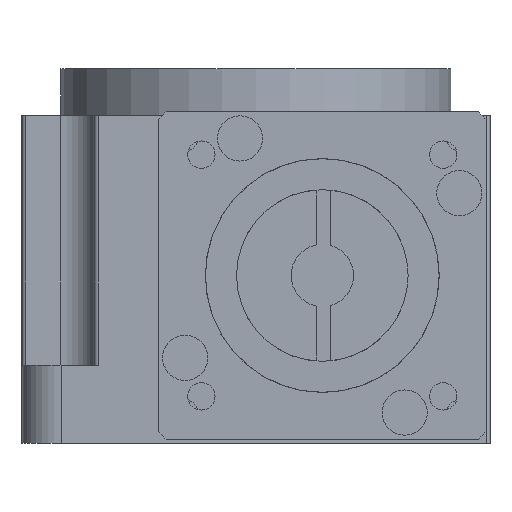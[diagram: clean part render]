
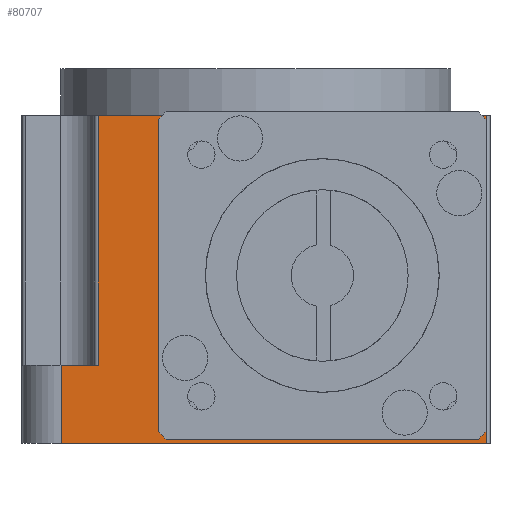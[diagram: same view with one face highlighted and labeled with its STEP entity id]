
A CAD part, front view. The second image highlights one B-rep face of the part: STEP entity #80707.
In plain terms, the highlighted planar face has unit normal (0, -1, 0).
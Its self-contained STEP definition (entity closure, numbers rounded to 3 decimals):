
#793 = ORIENTED_EDGE ( 'NONE', *, *, #68514, .F. ) ;
#1344 = DIRECTION ( 'NONE',  ( 0., 0., 1. ) ) ;
#2897 = VERTEX_POINT ( 'NONE', #32936 ) ;
#3634 = ORIENTED_EDGE ( 'NONE', *, *, #19944, .F. ) ;
#4200 = DIRECTION ( 'NONE',  ( 0., 0., 1. ) ) ;
#4251 = CARTESIAN_POINT ( 'NONE',  ( 28.5, -35., 4.5 ) ) ;
#5505 = LINE ( 'NONE', #10810, #62813 ) ;
#6130 = EDGE_CURVE ( 'NONE', #77726, #54209, #34378, .T. ) ;
#6255 = CARTESIAN_POINT ( 'NONE',  ( -8.5, -35., 38.5 ) ) ;
#7684 = CARTESIAN_POINT ( 'NONE',  ( -8.5, -35., 41.5 ) ) ;
#8315 = CARTESIAN_POINT ( 'NONE',  ( 29.5, -35., 42. ) ) ;
#10329 = ORIENTED_EDGE ( 'NONE', *, *, #16005, .F. ) ;
#10402 = VERTEX_POINT ( 'NONE', #26453 ) ;
#10810 = CARTESIAN_POINT ( 'NONE',  ( -25., -35., 0. ) ) ;
#11648 = VERTEX_POINT ( 'NONE', #55260 ) ;
#12850 = CARTESIAN_POINT ( 'NONE',  ( 25.5, -35., 38.5 ) ) ;
#13180 = CARTESIAN_POINT ( 'NONE',  ( -25., -35., 10. ) ) ;
#13547 = DIRECTION ( 'NONE',  ( 0., 0., 1. ) ) ;
#14129 = LINE ( 'NONE', #8315, #88166 ) ;
#14703 = DIRECTION ( 'NONE',  ( 0., 0., 1. ) ) ;
#16005 = EDGE_CURVE ( 'NONE', #54209, #22424, #51211, .T. ) ;
#16759 = CARTESIAN_POINT ( 'NONE',  ( -25., -35., 41.5 ) ) ;
#17030 = DIRECTION ( 'NONE',  ( 0., 0., 1. ) ) ;
#17240 = EDGE_CURVE ( 'NONE', #27956, #60426, #14129, .T. ) ;
#18751 = VERTEX_POINT ( 'NONE', #54149 ) ;
#19944 = EDGE_CURVE ( 'NONE', #10402, #27956, #77452, .T. ) ;
#20035 = DIRECTION ( 'NONE',  ( 0., 0., 1. ) ) ;
#20632 = CARTESIAN_POINT ( 'NONE',  ( 29.5, -35., 42. ) ) ;
#20777 = DIRECTION ( 'NONE',  ( 0., 0., -1. ) ) ;
#21601 = EDGE_CURVE ( 'NONE', #11648, #78479, #50329, .T. ) ;
#22424 = VERTEX_POINT ( 'NONE', #85355 ) ;
#22906 = DIRECTION ( 'NONE',  ( 0., -1., 0. ) ) ;
#23059 = EDGE_CURVE ( 'NONE', #18751, #66754, #62459, .T. ) ;
#23904 = DIRECTION ( 'NONE',  ( -1., 0., 0. ) ) ;
#23928 = ORIENTED_EDGE ( 'NONE', *, *, #67352, .F. ) ;
#24035 = DIRECTION ( 'NONE',  ( 0., 0., 1. ) ) ;
#24221 = VECTOR ( 'NONE', #14703, 1000. ) ;
#24884 = ORIENTED_EDGE ( 'NONE', *, *, #53797, .F. ) ;
#25057 = EDGE_CURVE ( 'NONE', #2897, #77726, #65567, .T. ) ;
#26453 = CARTESIAN_POINT ( 'NONE',  ( -20.2, -35., 42. ) ) ;
#27484 = EDGE_LOOP ( 'NONE', ( #793, #86936, #70844, #29661, #29833, #3634 ) ) ;
#27956 = VERTEX_POINT ( 'NONE', #20632 ) ;
#29661 = ORIENTED_EDGE ( 'NONE', *, *, #61297, .F. ) ;
#29833 = ORIENTED_EDGE ( 'NONE', *, *, #17240, .F. ) ;
#30444 = AXIS2_PLACEMENT_3D ( 'NONE', #6255, #56507, #13547 ) ;
#30957 = VERTEX_POINT ( 'NONE', #7684 ) ;
#31067 = CARTESIAN_POINT ( 'NONE',  ( -25., -35., 42. ) ) ;
#31703 = CIRCLE ( 'NONE', #30444, 3. ) ;
#32585 = VECTOR ( 'NONE', #23904, 1000. ) ;
#32936 = CARTESIAN_POINT ( 'NONE',  ( -11.5, -35., 38.5 ) ) ;
#34253 = CARTESIAN_POINT ( 'NONE',  ( -25., -35., 10. ) ) ;
#34378 = CIRCLE ( 'NONE', #78722, 3. ) ;
#36042 = VECTOR ( 'NONE', #4200, 1000. ) ;
#36272 = ORIENTED_EDGE ( 'NONE', *, *, #6130, .F. ) ;
#37467 = VERTEX_POINT ( 'NONE', #70580 ) ;
#37474 = EDGE_CURVE ( 'NONE', #66754, #37467, #64438, .T. ) ;
#39672 = EDGE_CURVE ( 'NONE', #22424, #81900, #86538, .T. ) ;
#41594 = DIRECTION ( 'NONE',  ( 1., 0., 0. ) ) ;
#44395 = DIRECTION ( 'NONE',  ( 0., -1., 0. ) ) ;
#45302 = VECTOR ( 'NONE', #77778, 1000. ) ;
#46873 = AXIS2_PLACEMENT_3D ( 'NONE', #31067, #60005, #17030 ) ;
#47241 = CARTESIAN_POINT ( 'NONE',  ( -20.2, -35., 42. ) ) ;
#48114 = DIRECTION ( 'NONE',  ( 1., 0., 0. ) ) ;
#50329 = CIRCLE ( 'NONE', #86009, 3. ) ;
#50467 = CARTESIAN_POINT ( 'NONE',  ( -25., -35., 42. ) ) ;
#51211 = LINE ( 'NONE', #76322, #72542 ) ;
#51959 = LINE ( 'NONE', #67103, #54196 ) ;
#52788 = PLANE ( 'NONE',  #46873 ) ;
#53330 = AXIS2_PLACEMENT_3D ( 'NONE', #87363, #44395, #1344 ) ;
#53797 = EDGE_CURVE ( 'NONE', #81900, #11648, #51959, .T. ) ;
#54149 = CARTESIAN_POINT ( 'NONE',  ( -25., -35., 0. ) ) ;
#54196 = VECTOR ( 'NONE', #24035, 1000. ) ;
#54209 = VERTEX_POINT ( 'NONE', #87676 ) ;
#54370 = FACE_BOUND ( 'NONE', #88883, .T. ) ;
#55260 = CARTESIAN_POINT ( 'NONE',  ( 28.5, -35., 38.5 ) ) ;
#56507 = DIRECTION ( 'NONE',  ( 0., -1., 0. ) ) ;
#58427 = VECTOR ( 'NONE', #41594, 1000. ) ;
#60005 = DIRECTION ( 'NONE',  ( 0., 1., 0. ) ) ;
#60426 = VERTEX_POINT ( 'NONE', #67443 ) ;
#61007 = DIRECTION ( 'NONE',  ( -1., 0., 0. ) ) ;
#61297 = EDGE_CURVE ( 'NONE', #60426, #18751, #5505, .T. ) ;
#62191 = ORIENTED_EDGE ( 'NONE', *, *, #21601, .F. ) ;
#62459 = LINE ( 'NONE', #50467, #24221 ) ;
#62813 = VECTOR ( 'NONE', #61007, 1000. ) ;
#63035 = DIRECTION ( 'NONE',  ( 0., -1., 0. ) ) ;
#63781 = CARTESIAN_POINT ( 'NONE',  ( -11.5, -35., 42. ) ) ;
#64438 = LINE ( 'NONE', #13180, #45302 ) ;
#65567 = LINE ( 'NONE', #63781, #84573 ) ;
#65936 = CARTESIAN_POINT ( 'NONE',  ( -8.5, -35., 4.5 ) ) ;
#66754 = VERTEX_POINT ( 'NONE', #34253 ) ;
#67103 = CARTESIAN_POINT ( 'NONE',  ( 28.5, -35., 42. ) ) ;
#67352 = EDGE_CURVE ( 'NONE', #30957, #2897, #31703, .T. ) ;
#67443 = CARTESIAN_POINT ( 'NONE',  ( 29.5, -35., 0. ) ) ;
#67992 = ORIENTED_EDGE ( 'NONE', *, *, #25057, .F. ) ;
#68514 = EDGE_CURVE ( 'NONE', #37467, #10402, #74274, .T. ) ;
#68869 = EDGE_CURVE ( 'NONE', #78479, #30957, #89869, .T. ) ;
#70580 = CARTESIAN_POINT ( 'NONE',  ( -20.2, -35., 10. ) ) ;
#70844 = ORIENTED_EDGE ( 'NONE', *, *, #23059, .F. ) ;
#72542 = VECTOR ( 'NONE', #48114, 1000. ) ;
#72980 = DIRECTION ( 'NONE',  ( 0., 0., -1. ) ) ;
#73127 = DIRECTION ( 'NONE',  ( 0., 0., 1. ) ) ;
#73141 = ORIENTED_EDGE ( 'NONE', *, *, #39672, .F. ) ;
#74274 = LINE ( 'NONE', #47241, #36042 ) ;
#74749 = CARTESIAN_POINT ( 'NONE',  ( 25.5, -35., 41.5 ) ) ;
#75675 = FACE_OUTER_BOUND ( 'NONE', #27484, .T. ) ;
#76322 = CARTESIAN_POINT ( 'NONE',  ( -25., -35., 1.5 ) ) ;
#77452 = LINE ( 'NONE', #91736, #58427 ) ;
#77726 = VERTEX_POINT ( 'NONE', #84284 ) ;
#77778 = DIRECTION ( 'NONE',  ( 1., 0., 0. ) ) ;
#78479 = VERTEX_POINT ( 'NONE', #74749 ) ;
#78722 = AXIS2_PLACEMENT_3D ( 'NONE', #65936, #22906, #73127 ) ;
#79859 = ORIENTED_EDGE ( 'NONE', *, *, #68869, .F. ) ;
#80707 = ADVANCED_FACE ( 'NONE', ( #54370, #75675 ), #52788, .F. ) ;
#81900 = VERTEX_POINT ( 'NONE', #4251 ) ;
#84284 = CARTESIAN_POINT ( 'NONE',  ( -11.5, -35., 4.5 ) ) ;
#84573 = VECTOR ( 'NONE', #20777, 1000. ) ;
#85355 = CARTESIAN_POINT ( 'NONE',  ( 25.5, -35., 1.5 ) ) ;
#86009 = AXIS2_PLACEMENT_3D ( 'NONE', #12850, #63035, #20035 ) ;
#86538 = CIRCLE ( 'NONE', #53330, 3. ) ;
#86936 = ORIENTED_EDGE ( 'NONE', *, *, #37474, .F. ) ;
#87363 = CARTESIAN_POINT ( 'NONE',  ( 25.5, -35., 4.5 ) ) ;
#87676 = CARTESIAN_POINT ( 'NONE',  ( -8.5, -35., 1.5 ) ) ;
#88166 = VECTOR ( 'NONE', #72980, 1000. ) ;
#88883 = EDGE_LOOP ( 'NONE', ( #79859, #62191, #24884, #73141, #10329, #36272, #67992, #23928 ) ) ;
#89869 = LINE ( 'NONE', #16759, #32585 ) ;
#91736 = CARTESIAN_POINT ( 'NONE',  ( -25., -35., 42. ) ) ;
